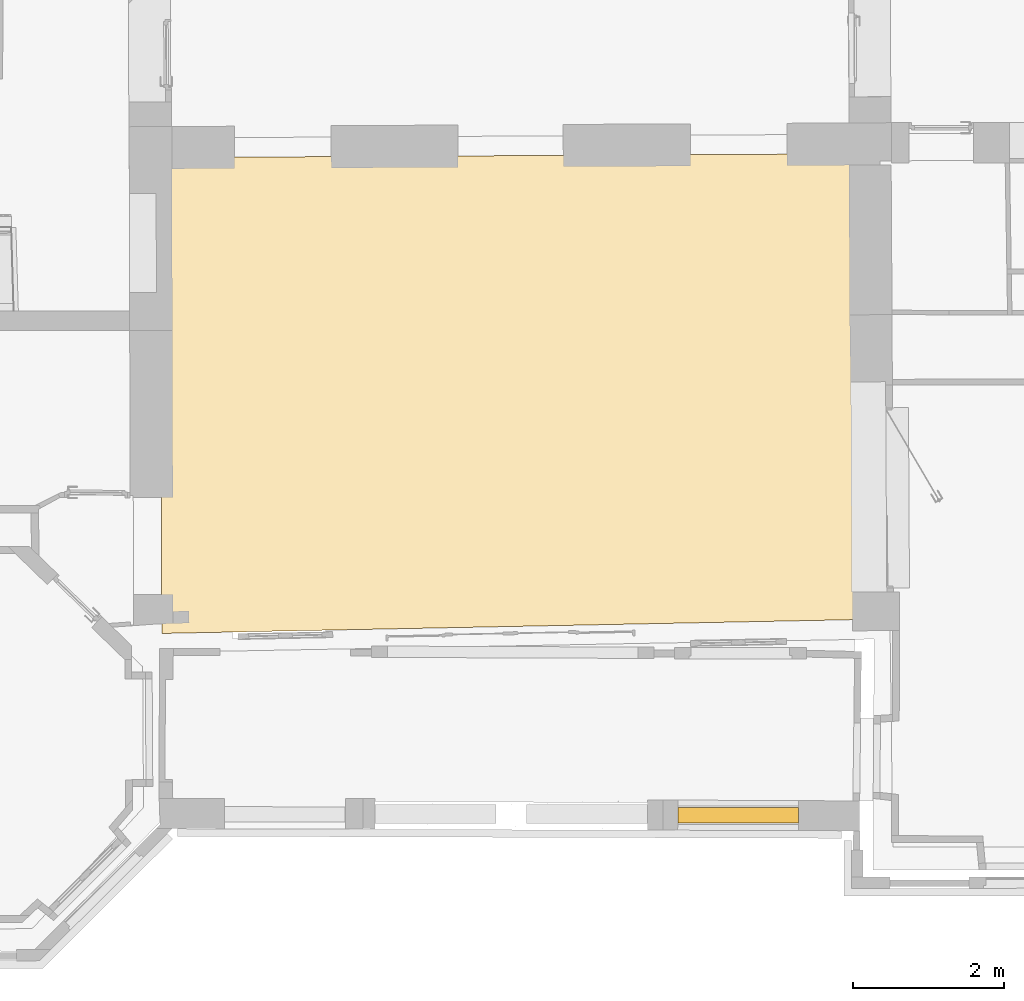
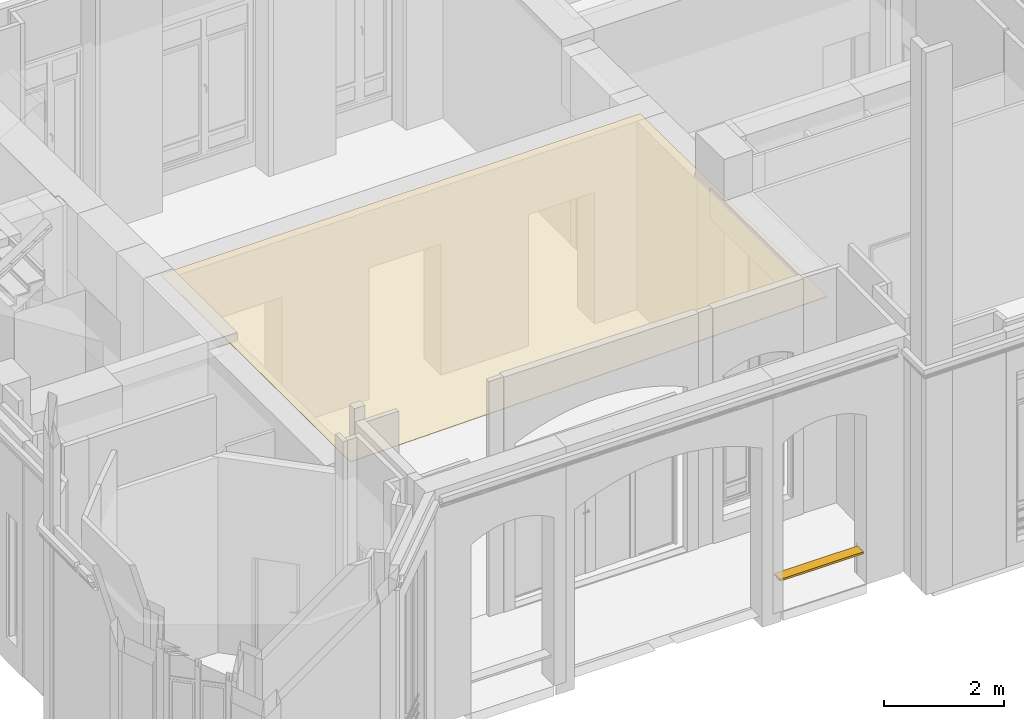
# One storey, part 79 of 97: 1 covering, 1 railing.
"""IFC2X3 building model written with IfcOpenShell, lengths in centimetres."""

from ifc_helpers import new_model, entity, si_unit, converted_unit, direction, frame, origin, origin_with_axes, place, context, subcontext, project, spatial, faceted_brep, shape, source, transform, mapped, material, material_list, type_object, element, save


model = new_model("IFC2X3")

# Units and contexts
model_context = context("Model", 3, precision=0.0001, world=origin(), true_north=direction((0.225632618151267, 0.974212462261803, 0.0)))
body_context = subcontext(model_context, "Body", "Model", "MODEL_VIEW")
ifc_project = project(units=[si_unit("LENGTHUNIT", "METRE", prefix="CENTI"), si_unit("AREAUNIT", "SQUARE_METRE", prefix="CENTI"), si_unit("VOLUMEUNIT", "CUBIC_METRE", prefix="CENTI"), converted_unit("PLANEANGLEUNIT", "DEGREE", entity("IfcRatioMeasure", 0.0174532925), si_unit("PLANEANGLEUNIT", "RADIAN"), dimensions=[0, 0, 0, 0, 0, 0, 0])], contexts=[model_context])

# Site, building, storey
site_placement = place(None, origin_with_axes())
site = spatial("IfcSite", under=ifc_project, at=site_placement, Name="Default Site", CompositionType="ELEMENT")
building_placement = place(site_placement, origin_with_axes())
building = spatial("IfcBuilding", under=site, at=building_placement, Name="Default Building", CompositionType="ELEMENT")
storey_placement = place(building_placement, origin_with_axes())
storey = spatial("IfcBuildingStorey", under=building, at=storey_placement, Name="Rez-de-chaussée", CompositionType="ELEMENT", Elevation=0.0)

# Railing
ifc_material_1 = material(Name="Pierre du saint gottard")
ifc_material_2 = material(Name="Aluminium mat")
ifc_material_list = material_list([ifc_material_1, ifc_material_2])
railing_type = type_object("IfcRailingType", Name="Colonnes rectangulaire", PredefinedType="NOTDEFINED", material=ifc_material_list)
shared_shape_1 = source(origin_with_axes(), body_context, "Body", "Brep", [
    faceted_brep([(168.916320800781, -943.186092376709, 54.0002822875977), (168.915414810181, -948.186111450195, 54.0002822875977), (9.3644805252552, -948.157215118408, 54.0002822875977), (9.36538651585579, -943.157196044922, 54.0002822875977), (168.915414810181, -948.186111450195, 52.0002841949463), (9.36448052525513, -948.157215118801, 52.0002841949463), (9.36448052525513, -948.157215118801, 54.0002822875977), (168.913602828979, -958.186149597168, 52.0002841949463), (9.36267003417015, -958.157253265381, 52.0002841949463), (9.3644805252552, -948.157215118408, 52.0002841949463), (168.913602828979, -958.186149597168, 54.0002822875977), (9.36267003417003, -958.157253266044, 54.0002822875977), (9.36267003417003, -958.157253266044, 52.0002841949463), (168.912696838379, -963.186168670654, 54.0002822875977), (9.36176404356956, -963.157272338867, 54.0002822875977), (9.36267003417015, -958.157253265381, 54.0002822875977), (168.912696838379, -963.186168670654, 57.9999983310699), (9.36176404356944, -963.15727233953, 57.9999983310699), (9.36176404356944, -963.15727233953, 54.0002822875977), (168.916320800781, -943.186092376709, 57.9999983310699), (9.36538651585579, -943.157196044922, 57.9999983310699), (9.36176404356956, -963.157272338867, 57.9999983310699), (9.36538651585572, -943.157196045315, 54.0002822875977), (9.36538651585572, -943.157196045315, 57.9999983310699), (9.36448096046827, -948.157215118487, 54.0002822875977), (9.36448096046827, -948.157215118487, 52.0002841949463), (9.36266984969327, -958.157253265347, 52.0002841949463), (9.36266984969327, -958.157253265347, 54.0002822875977), (9.36176429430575, -963.157272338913, 54.0002822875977), (9.36176429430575, -963.157272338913, 57.9999983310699), (168.912698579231, -963.18616867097, 57.9999983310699), (168.912698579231, -963.18616867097, 54.0002822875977), (168.913604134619, -958.186149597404, 54.0002822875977), (168.913604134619, -958.186149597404, 52.0002841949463), (168.915415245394, -948.186111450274, 52.0002841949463), (168.915415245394, -948.186111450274, 54.0002822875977)], [[[0, 1, 2, 3]], [[1, 4, 5, 6]], [[4, 7, 8, 9]], [[7, 10, 11, 12]], [[10, 13, 14, 15]], [[13, 16, 17, 18]], [[16, 19, 20, 21]], [[19, 0, 22, 23]], [[3, 24, 25, 26, 27, 28, 29, 20]], [[19, 30, 31, 32, 33, 34, 35, 0]]]),
])
shared_shape_2 = source(origin_with_axes(), body_context, "Body", "Brep", [
    faceted_brep([(168.915414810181, -948.186111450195, 3.99971418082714), (168.915414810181, -948.186111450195, 1.99971422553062), (9.36448052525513, -948.157215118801, 1.99971422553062), (9.36448052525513, -948.157215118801, 3.99971418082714), (168.916320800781, -943.186092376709, 1.99971422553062), (9.36538651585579, -943.157196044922, 1.99971422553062), (9.3644805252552, -948.157215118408, 1.99971422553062), (168.916320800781, -943.186092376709, -1.99999995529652), (9.36538651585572, -943.157196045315, -1.99999995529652), (9.36538651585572, -943.157196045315, 1.99971422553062), (168.912696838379, -963.186168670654, -1.99999995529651), (9.36176404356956, -963.157272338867, -1.99999995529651), (9.36538651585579, -943.157196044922, -1.99999995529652), (168.912696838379, -963.186168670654, -1.99999995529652), (168.912696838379, -963.186168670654, 1.99971422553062), (9.36176404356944, -963.15727233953, 1.99971422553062), (9.36176404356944, -963.15727233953, -1.99999995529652), (168.913602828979, -958.186149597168, 1.99971422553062), (9.36267003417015, -958.157253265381, 1.99971422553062), (9.36176404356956, -963.157272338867, 1.99971422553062), (168.913602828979, -958.186149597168, 3.99971418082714), (9.36267003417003, -958.157253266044, 3.99971418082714), (9.36267003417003, -958.157253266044, 1.99971422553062), (9.3644805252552, -948.157215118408, 3.99971418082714), (9.36267003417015, -958.157253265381, 3.99971418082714), (9.36538608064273, -943.157196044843, 1.99971422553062), (9.36538608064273, -943.157196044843, -1.99999995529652), (9.36176385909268, -963.157272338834, -1.99999995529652), (9.36176385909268, -963.157272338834, 1.99971422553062), (9.36266941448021, -958.157253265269, 1.99971422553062), (9.36266941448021, -958.157253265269, 3.99971418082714), (168.912697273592, -963.186168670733, 1.99971422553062), (168.912697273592, -963.186168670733, -1.99999995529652), (168.916319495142, -943.186092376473, -1.99999995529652), (168.916319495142, -943.186092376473, 1.99971422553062), (168.915413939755, -948.186111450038, 1.99971422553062), (168.915413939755, -948.186111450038, 3.99971418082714)], [[[0, 1, 2, 3]], [[1, 4, 5, 6]], [[4, 7, 8, 9]], [[7, 10, 11, 12]], [[13, 14, 15, 16]], [[14, 17, 18, 19]], [[17, 20, 21, 22]], [[20, 0, 23, 24]], [[23, 6, 25, 26, 27, 28, 29, 30]], [[20, 17, 31, 32, 33, 34, 35, 36]]]),
])
shared_shape_3 = source(origin_with_axes(), body_context, "Body", "Brep", [
    faceted_brep([(11.9649283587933, 0.0712678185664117, 1.01694911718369), (11.5499995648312, 0.0500000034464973, 2.03389823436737), (11.9649283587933, 0.0712678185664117, 2.03389823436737), (11.5499995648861, 0.0500000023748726, 2.03389823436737), (11.9649283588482, 0.071267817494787, 1.01694911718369), (11.5499995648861, 0.0500000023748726, 1.01694911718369), (11.9499996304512, -0.44999998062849, 1.01694911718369), (11.5499995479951, 0.0499999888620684, 2.03389823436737), (11.5499995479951, 0.0499999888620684, 1.01694911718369), (11.9499996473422, -0.449999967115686, 1.01694911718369), (11.9499996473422, -0.449999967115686, 2.03389823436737), (12.4499999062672, -0.0500000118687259, 2.03389823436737), (11.9499996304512, -0.44999998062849, 2.03389823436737), (12.4499998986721, -0.0500000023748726, 2.03389823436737), (11.9499996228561, -0.449999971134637, 1.01694911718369), (12.4499998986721, -0.0500000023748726, 1.01694911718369), (11.9649283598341, 0.0712678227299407, 2.03389823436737), (12.4499998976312, -0.0500000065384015, 1.01694911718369)], [[[0, 1, 2]], [[3, 4, 5]], [[6, 7, 8]], [[3, 9, 10]], [[6, 11, 12]], [[13, 14, 15]], [[15, 16, 13]], [[2, 17, 0]], [[12, 2, 3]], [[2, 12, 13]], [[0, 6, 5]], [[6, 0, 15]]]),
])
shared_shape_4 = source(origin_with_axes(), body_context, "Body", "Brep", [
    faceted_brep([(-12.0350711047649, 0.0712678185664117, 1.01694911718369), (-12.449999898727, 0.0500000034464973, 2.03389823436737), (-12.0350711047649, 0.0712678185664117, 2.03389823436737), (-12.4499998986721, 0.0500000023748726, 2.03389823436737), (-12.03507110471, 0.071267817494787, 1.01694911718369), (-12.4499998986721, 0.0500000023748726, 1.01694911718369), (-12.049999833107, -0.44999998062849, 1.01694911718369), (-12.4499999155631, 0.0499999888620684, 2.03389823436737), (-12.4499999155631, 0.0499999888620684, 1.01694911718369), (-12.049999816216, -0.449999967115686, 1.01694911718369), (-12.049999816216, -0.449999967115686, 2.03389823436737), (-11.549999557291, -0.0500000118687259, 2.03389823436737), (-12.049999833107, -0.44999998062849, 2.03389823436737), (-11.5499995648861, -0.0500000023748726, 2.03389823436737), (-12.0499998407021, -0.449999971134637, 1.01694911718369), (-11.5499995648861, -0.0500000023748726, 1.01694911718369), (-12.0350711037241, 0.0712678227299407, 2.03389823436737), (-11.549999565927, -0.0500000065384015, 1.01694911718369)], [[[0, 1, 2]], [[3, 4, 5]], [[6, 7, 8]], [[3, 9, 10]], [[6, 11, 12]], [[13, 14, 15]], [[15, 16, 13]], [[2, 17, 0]], [[12, 2, 3]], [[2, 12, 13]], [[0, 6, 5]], [[6, 0, 15]]]),
])
shared_shape_5 = source(origin_with_axes(), body_context, "Body", "Brep", [
    faceted_brep([(-2.99999993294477, -5.00000007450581, 0.0), (2.99999993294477, 5.00000007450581, 0.0), (2.99999993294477, -5.00000007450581, 0.0), (-2.99999993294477, 5.00000007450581, 0.0), (-2.99999993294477, 5.00000007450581, 47.9999989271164), (2.99999993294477, 5.00000007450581, 47.9999989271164), (2.99999993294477, -5.00000007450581, 47.9999989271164), (-2.99999993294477, -5.00000007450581, 47.9999989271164)], [[[0, 1, 2]], [[1, 0, 3]], [[4, 1, 3]], [[1, 4, 5]], [[4, 6, 5]], [[6, 4, 7]], [[6, 0, 2]], [[0, 6, 7]], [[6, 1, 5]], [[1, 6, 2]], [[0, 4, 3]], [[4, 0, 7]]]),
])
railing_placement = place(storey_placement, frame((9.36357514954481, -953.157216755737, -2.0), z_axis=(0.0, 0.0, 1.0), x_axis=(1.0, 0.0, 0.0)))
element("IfcRailing", 1, at=railing_placement, inside=storey, type_object=railing_type, material=ifc_material_list, Name="Garde-corps 379474", PredefinedType="NOTDEFINED", shapes=[
    shape(body_context, "Body", "MappedRepresentation", [mapped(shared_shape_1, transform((-9.36357514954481, 953.157216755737, 2.0), x_axis=(1.0, 0.0, 0.0), y_axis=(0.0, 1.0, 0.0), z_axis=(0.0, 0.0, 1.0), scale=1.0, scale2=1.0, scale3=1.0, uniform=False))]),
    shape(body_context, "Body", "MappedRepresentation", [mapped(shared_shape_2, transform((-9.36357514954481, 953.157216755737, 2.0), x_axis=(1.0, 0.0, 0.0), y_axis=(0.0, 1.0, 0.0), z_axis=(0.0, 0.0, 1.0), scale=1.0, scale2=1.0, scale3=1.0, uniform=False))]),
    shape(body_context, "Body", "MappedRepresentation", [mapped(shared_shape_3, transform((1.30167870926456e-07, -1.74361579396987e-05, 4.47034836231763e-08), x_axis=(0.999999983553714, -0.000181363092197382, 0.0), y_axis=(0.000181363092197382, 0.999999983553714, 0.0), z_axis=(0.0, 0.0, 1.0), scale=1.00000001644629, scale2=1.00000001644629, scale3=1.0, uniform=False))]),
    shape(body_context, "Body", "MappedRepresentation", [mapped(shared_shape_4, transform((159.550933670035, -0.0289137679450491, 4.47034836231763e-08), x_axis=(0.999999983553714, -0.000181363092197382, 0.0), y_axis=(0.000181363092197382, 0.999999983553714, 0.0), z_axis=(0.0, 0.0, 1.0), scale=1.00000001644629, scale2=1.00000001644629, scale3=1.0, uniform=False))]),
    shape(body_context, "Body", "MappedRepresentation", [mapped(shared_shape_5, transform((9.77546883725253, -0.00173404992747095, 5.99999991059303), x_axis=(0.999999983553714, -0.000181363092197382, 0.0), y_axis=(0.000181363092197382, 0.999999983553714, 0.0), z_axis=(0.0, 0.0, 1.0), scale=1.00000001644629, scale2=1.00000001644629, scale3=1.0, uniform=False))]),
    shape(body_context, "Body", "MappedRepresentation", [mapped(shared_shape_5, transform((23.7754688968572, -0.00430897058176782, 5.99999991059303), x_axis=(0.999999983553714, -0.000181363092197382, 0.0), y_axis=(0.000181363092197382, 0.999999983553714, 0.0), z_axis=(0.0, 0.0, 1.0), scale=1.00000001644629, scale2=1.00000001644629, scale3=1.0, uniform=False))]),
    shape(body_context, "Body", "MappedRepresentation", [mapped(shared_shape_5, transform((37.7754674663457, -0.0068838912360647, 5.99999991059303), x_axis=(0.999999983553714, -0.000181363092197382, 0.0), y_axis=(0.000181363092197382, 0.999999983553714, 0.0), z_axis=(0.0, 0.0, 1.0), scale=1.00000001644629, scale2=1.00000001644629, scale3=1.0, uniform=False))]),
    shape(body_context, "Body", "MappedRepresentation", [mapped(shared_shape_5, transform((51.7754660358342, -0.00936344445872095, 5.99999991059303), x_axis=(0.999999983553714, -0.000181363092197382, 0.0), y_axis=(0.000181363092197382, 0.999999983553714, 0.0), z_axis=(0.0, 0.0, 1.0), scale=1.00000001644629, scale2=1.00000001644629, scale3=1.0, uniform=False))]),
    shape(body_context, "Body", "MappedRepresentation", [mapped(shared_shape_5, transform((65.7754705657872, -0.0119383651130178, 5.99999991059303), x_axis=(0.999999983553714, -0.000181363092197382, 0.0), y_axis=(0.000181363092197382, 0.999999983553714, 0.0), z_axis=(0.0, 0.0, 1.0), scale=1.00000001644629, scale2=1.00000001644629, scale3=1.0, uniform=False))]),
    shape(body_context, "Body", "MappedRepresentation", [mapped(shared_shape_5, transform((79.7754691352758, -0.0145132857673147, 5.99999991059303), x_axis=(0.999999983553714, -0.000181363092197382, 0.0), y_axis=(0.000181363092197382, 0.999999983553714, 0.0), z_axis=(0.0, 0.0, 1.0), scale=1.00000001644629, scale2=1.00000001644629, scale3=1.0, uniform=False))]),
    shape(body_context, "Body", "MappedRepresentation", [mapped(shared_shape_5, transform((93.7754677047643, -0.0169928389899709, 5.99999991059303), x_axis=(0.999999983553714, -0.000181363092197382, 0.0), y_axis=(0.000181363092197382, 0.999999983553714, 0.0), z_axis=(0.0, 0.0, 1.0), scale=1.00000001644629, scale2=1.00000001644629, scale3=1.0, uniform=False))]),
    shape(body_context, "Body", "MappedRepresentation", [mapped(shared_shape_5, transform((107.775466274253, -0.0195677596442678, 5.99999991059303), x_axis=(0.999999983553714, -0.000181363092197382, 0.0), y_axis=(0.000181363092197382, 0.999999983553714, 0.0), z_axis=(0.0, 0.0, 1.0), scale=1.00000001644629, scale2=1.00000001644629, scale3=1.0, uniform=False))]),
    shape(body_context, "Body", "MappedRepresentation", [mapped(shared_shape_5, transform((121.775464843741, -0.0220473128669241, 5.99999991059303), x_axis=(0.999999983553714, -0.000181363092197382, 0.0), y_axis=(0.000181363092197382, 0.999999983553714, 0.0), z_axis=(0.0, 0.0, 1.0), scale=1.00000001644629, scale2=1.00000001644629, scale3=1.0, uniform=False))]),
    shape(body_context, "Body", "MappedRepresentation", [mapped(shared_shape_5, transform((135.77546341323, -0.0246222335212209, 5.99999991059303), x_axis=(0.999999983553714, -0.000181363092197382, 0.0), y_axis=(0.000181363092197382, 0.999999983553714, 0.0), z_axis=(0.0, 0.0, 1.0), scale=1.00000001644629, scale2=1.00000001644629, scale3=1.0, uniform=False))]),
    shape(body_context, "Body", "MappedRepresentation", [mapped(shared_shape_5, transform((149.775461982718, -0.0271971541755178, 5.99999991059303), x_axis=(0.999999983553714, -0.000181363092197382, 0.0), y_axis=(0.000181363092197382, 0.999999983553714, 0.0), z_axis=(0.0, 0.0, 1.0), scale=1.00000001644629, scale2=1.00000001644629, scale3=1.0, uniform=False))]),
])

# Covering
ifc_material_3 = material(Name="Blanc")
covering_placement = place(storey_placement, frame((-673.995987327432, -84.3713426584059, 382.493626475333), z_axis=(0.0, 0.0, 1.0), x_axis=(1.0, 0.0, 0.0)))
element("IfcCovering", 2, at=covering_placement, inside=storey, material=ifc_material_3, Name="Faux-plafond 6295", PredefinedType="CEILING", context=body_context, shape_type="Brep", body=[
    faceted_brep([(1.67857781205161, -628.62075328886, 1.40000641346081), (928.364316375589, -610.174880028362, 1.40000641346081), (924.266544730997, 4.89453911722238, 1.40000641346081), (1.56477449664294e-05, 2.38359506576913e-06, 1.40000641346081), (1.56477449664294e-05, 2.38359506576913e-06, -1.13248814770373e-05), (924.266544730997, 4.89453911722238, -1.13248814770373e-05), (928.364316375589, -610.174880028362, -1.13248814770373e-05), (1.67857781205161, -628.62075328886, -1.13248814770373e-05), (928.364316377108, -610.174880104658, -1.13248814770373e-05), (928.364316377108, -610.174880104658, 1.40000641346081), (924.266541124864, 4.89453909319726, -1.13248814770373e-05), (924.266541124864, 4.89453909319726, 1.40000641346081), (1.56660312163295e-05, -1.06951147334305e-06, -1.13248814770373e-05), (1.56660312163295e-05, -1.06951147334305e-06, 1.40000641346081), (1.67858562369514, -628.620753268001, -1.13248814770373e-05), (1.67858562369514, -628.620753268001, 1.40000641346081)], [[[0, 1, 2, 3]], [[4, 5, 6, 7]], [[7, 8, 9, 0]], [[6, 10, 11, 1]], [[5, 12, 13, 2]], [[4, 14, 15, 3]]]),
])

save(model, "model.ifc")
